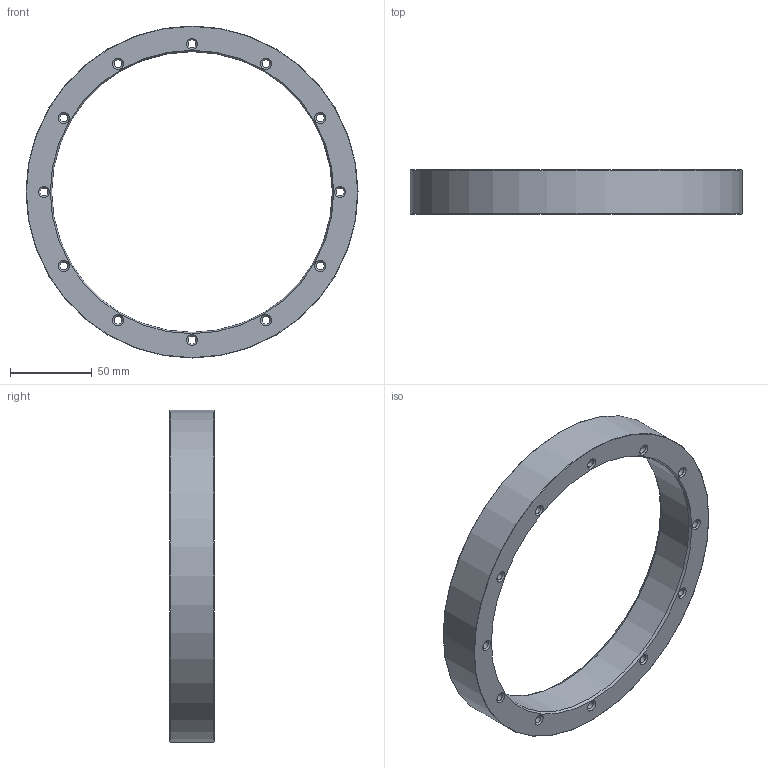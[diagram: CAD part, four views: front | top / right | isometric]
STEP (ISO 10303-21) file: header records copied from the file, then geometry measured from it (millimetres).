
FILE_DESCRIPTION(('STEP AP214'), '1');
FILE_NAME('ﾌﾀﾍﾏ.684252.020-30 ﾐⅳⅱ 280x27', '', ('UNSPECIFIED'), ('UNSPECIFIED'), 'C3D Converter', 'C3D Toolkit', '');
FILE_SCHEMA(('AUTOMOTIVE_DESIGN { 1 0 10303 214 3 1 1}'));
Length unit declared in the file: millimetre
Products named in the file (1): МАНП.684252.020-30
Bounding box: 203.5 x 27 x 203.5 mm (x, y, z)
Volume: 243747.7 mm3; surface area: 54004.2 mm2
Topology: 1 solids, 1 shells, 44 faces, 98 edges, 56 vertices
Faces by surface type: cone 26, cylinder 14, plane 2, torus 2
Full cylindrical faces by diameter (mm): 4.917 x12, 172 x1, 203.5 x1
Entity records: 1448 total; most frequent: DIRECTION 202, CARTESIAN_POINT 157, EDGE_LOOP 112, ORIENTED_EDGE 112, AXIS2_PLACEMENT_3D 101, FACE_OUTER_BOUND 84, EDGE_CURVE 56, VERTEX_POINT 56
